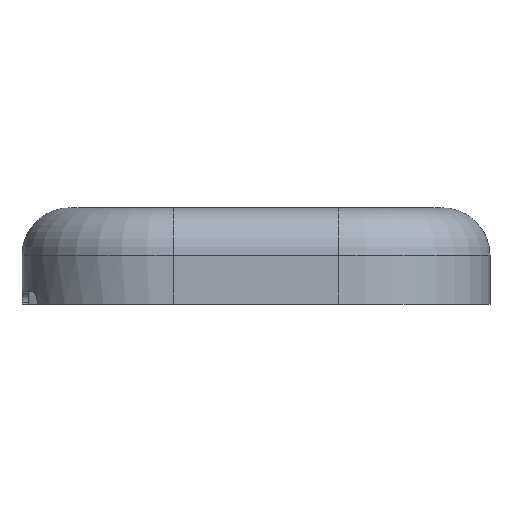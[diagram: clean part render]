
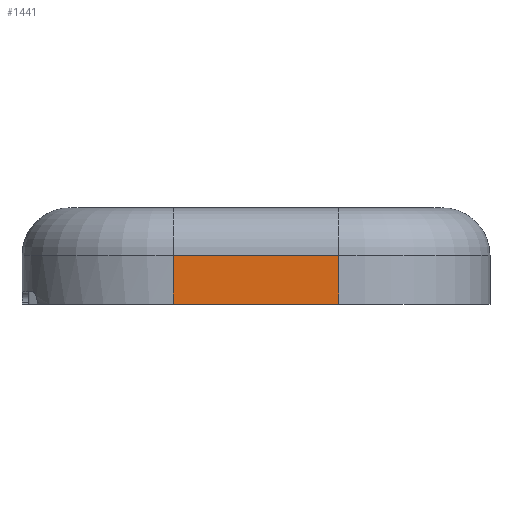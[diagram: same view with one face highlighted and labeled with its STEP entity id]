
A CAD part, front view. The second image highlights one B-rep face of the part: STEP entity #1441.
In plain terms, the highlighted planar face has unit normal (0, -1, 0).
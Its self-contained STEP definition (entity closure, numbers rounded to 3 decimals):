
#152 = PLANE('',#153);
#153 = AXIS2_PLACEMENT_3D('',#154,#155,#156);
#154 = CARTESIAN_POINT('',(0.,0.,-4.2));
#155 = DIRECTION('',(0.,0.,1.));
#156 = DIRECTION('',(1.,0.,-0.));
#205 = VERTEX_POINT('',#206);
#206 = CARTESIAN_POINT('',(16.,-69.2,-4.2));
#221 = CYLINDRICAL_SURFACE('',#222,29.2);
#222 = AXIS2_PLACEMENT_3D('',#223,#224,#225);
#223 = CARTESIAN_POINT('',(16.,-40.,-14.4));
#224 = DIRECTION('',(0.,0.,1.));
#225 = DIRECTION('',(0.707,-0.707,0.));
#233 = EDGE_CURVE('',#234,#205,#236,.T.);
#234 = VERTEX_POINT('',#235);
#235 = CARTESIAN_POINT('',(-16.,-69.2,-4.2));
#236 = SURFACE_CURVE('',#237,(#241,#248),.PCURVE_S1.);
#237 = LINE('',#238,#239);
#238 = CARTESIAN_POINT('',(-22.6,-69.2,-4.2));
#239 = VECTOR('',#240,1.);
#240 = DIRECTION('',(1.,0.,0.));
#241 = PCURVE('',#152,#242);
#242 = DEFINITIONAL_REPRESENTATION('',(#243),#247);
#243 = LINE('',#244,#245);
#244 = CARTESIAN_POINT('',(-22.6,-69.2));
#245 = VECTOR('',#246,1.);
#246 = DIRECTION('',(1.,0.));
#247 = ( GEOMETRIC_REPRESENTATION_CONTEXT(2) 
PARAMETRIC_REPRESENTATION_CONTEXT() REPRESENTATION_CONTEXT('2D SPACE',''
  ) );
#248 = PCURVE('',#249,#254);
#249 = PLANE('',#250);
#250 = AXIS2_PLACEMENT_3D('',#251,#252,#253);
#251 = CARTESIAN_POINT('',(-45.2,-69.2,-14.4));
#252 = DIRECTION('',(0.,-1.,0.));
#253 = DIRECTION('',(1.,0.,0.));
#254 = DEFINITIONAL_REPRESENTATION('',(#255),#259);
#255 = LINE('',#256,#257);
#256 = CARTESIAN_POINT('',(22.6,10.2));
#257 = VECTOR('',#258,1.);
#258 = DIRECTION('',(1.,0.));
#259 = ( GEOMETRIC_REPRESENTATION_CONTEXT(2) 
PARAMETRIC_REPRESENTATION_CONTEXT() REPRESENTATION_CONTEXT('2D SPACE',''
  ) );
#278 = CYLINDRICAL_SURFACE('',#279,29.2);
#279 = AXIS2_PLACEMENT_3D('',#280,#281,#282);
#280 = CARTESIAN_POINT('',(-16.,-40.,-14.4));
#281 = DIRECTION('',(0.,0.,1.));
#282 = DIRECTION('',(-0.707,-0.707,0.));
#1242 = EDGE_CURVE('',#234,#1243,#1245,.T.);
#1243 = VERTEX_POINT('',#1244);
#1244 = CARTESIAN_POINT('',(-16.,-69.2,5.2));
#1245 = SURFACE_CURVE('',#1246,(#1250,#1257),.PCURVE_S1.);
#1246 = LINE('',#1247,#1248);
#1247 = CARTESIAN_POINT('',(-16.,-69.2,-14.4));
#1248 = VECTOR('',#1249,1.);
#1249 = DIRECTION('',(0.,0.,1.));
#1250 = PCURVE('',#278,#1251);
#1251 = DEFINITIONAL_REPRESENTATION('',(#1252),#1256);
#1252 = LINE('',#1253,#1254);
#1253 = CARTESIAN_POINT('',(7.069,0.));
#1254 = VECTOR('',#1255,1.);
#1255 = DIRECTION('',(0.,1.));
#1256 = ( GEOMETRIC_REPRESENTATION_CONTEXT(2) 
PARAMETRIC_REPRESENTATION_CONTEXT() REPRESENTATION_CONTEXT('2D SPACE',''
  ) );
#1257 = PCURVE('',#249,#1258);
#1258 = DEFINITIONAL_REPRESENTATION('',(#1259),#1263);
#1259 = LINE('',#1260,#1261);
#1260 = CARTESIAN_POINT('',(29.2,0.));
#1261 = VECTOR('',#1262,1.);
#1262 = DIRECTION('',(0.,1.));
#1263 = ( GEOMETRIC_REPRESENTATION_CONTEXT(2) 
PARAMETRIC_REPRESENTATION_CONTEXT() REPRESENTATION_CONTEXT('2D SPACE',''
  ) );
#1441 = ADVANCED_FACE('',(#1442),#249,.T.);
#1442 = FACE_BOUND('',#1443,.T.);
#1443 = EDGE_LOOP('',(#1444,#1445,#1468,#1494));
#1444 = ORIENTED_EDGE('',*,*,#233,.T.);
#1445 = ORIENTED_EDGE('',*,*,#1446,.F.);
#1446 = EDGE_CURVE('',#1447,#205,#1449,.T.);
#1447 = VERTEX_POINT('',#1448);
#1448 = CARTESIAN_POINT('',(16.,-69.2,5.2));
#1449 = SURFACE_CURVE('',#1450,(#1454,#1461),.PCURVE_S1.);
#1450 = LINE('',#1451,#1452);
#1451 = CARTESIAN_POINT('',(16.,-69.2,-14.4));
#1452 = VECTOR('',#1453,1.);
#1453 = DIRECTION('',(0.,0.,-1.));
#1454 = PCURVE('',#249,#1455);
#1455 = DEFINITIONAL_REPRESENTATION('',(#1456),#1460);
#1456 = LINE('',#1457,#1458);
#1457 = CARTESIAN_POINT('',(61.2,0.));
#1458 = VECTOR('',#1459,1.);
#1459 = DIRECTION('',(0.,-1.));
#1460 = ( GEOMETRIC_REPRESENTATION_CONTEXT(2) 
PARAMETRIC_REPRESENTATION_CONTEXT() REPRESENTATION_CONTEXT('2D SPACE',''
  ) );
#1461 = PCURVE('',#221,#1462);
#1462 = DEFINITIONAL_REPRESENTATION('',(#1463),#1467);
#1463 = LINE('',#1464,#1465);
#1464 = CARTESIAN_POINT('',(5.498,0.));
#1465 = VECTOR('',#1466,1.);
#1466 = DIRECTION('',(0.,-1.));
#1467 = ( GEOMETRIC_REPRESENTATION_CONTEXT(2) 
PARAMETRIC_REPRESENTATION_CONTEXT() REPRESENTATION_CONTEXT('2D SPACE',''
  ) );
#1468 = ORIENTED_EDGE('',*,*,#1469,.F.);
#1469 = EDGE_CURVE('',#1243,#1447,#1470,.T.);
#1470 = SURFACE_CURVE('',#1471,(#1475,#1482),.PCURVE_S1.);
#1471 = LINE('',#1472,#1473);
#1472 = CARTESIAN_POINT('',(-22.6,-69.2,5.2));
#1473 = VECTOR('',#1474,1.);
#1474 = DIRECTION('',(1.,0.,0.));
#1475 = PCURVE('',#249,#1476);
#1476 = DEFINITIONAL_REPRESENTATION('',(#1477),#1481);
#1477 = LINE('',#1478,#1479);
#1478 = CARTESIAN_POINT('',(22.6,19.6));
#1479 = VECTOR('',#1480,1.);
#1480 = DIRECTION('',(1.,0.));
#1481 = ( GEOMETRIC_REPRESENTATION_CONTEXT(2) 
PARAMETRIC_REPRESENTATION_CONTEXT() REPRESENTATION_CONTEXT('2D SPACE',''
  ) );
#1482 = PCURVE('',#1483,#1488);
#1483 = CYLINDRICAL_SURFACE('',#1484,9.2);
#1484 = AXIS2_PLACEMENT_3D('',#1485,#1486,#1487);
#1485 = CARTESIAN_POINT('',(-22.6,-60.,5.2));
#1486 = DIRECTION('',(1.,0.,0.));
#1487 = DIRECTION('',(0.,-0.707,0.707));
#1488 = DEFINITIONAL_REPRESENTATION('',(#1489),#1493);
#1489 = LINE('',#1490,#1491);
#1490 = CARTESIAN_POINT('',(7.069,0.));
#1491 = VECTOR('',#1492,1.);
#1492 = DIRECTION('',(0.,1.));
#1493 = ( GEOMETRIC_REPRESENTATION_CONTEXT(2) 
PARAMETRIC_REPRESENTATION_CONTEXT() REPRESENTATION_CONTEXT('2D SPACE',''
  ) );
#1494 = ORIENTED_EDGE('',*,*,#1242,.F.);
